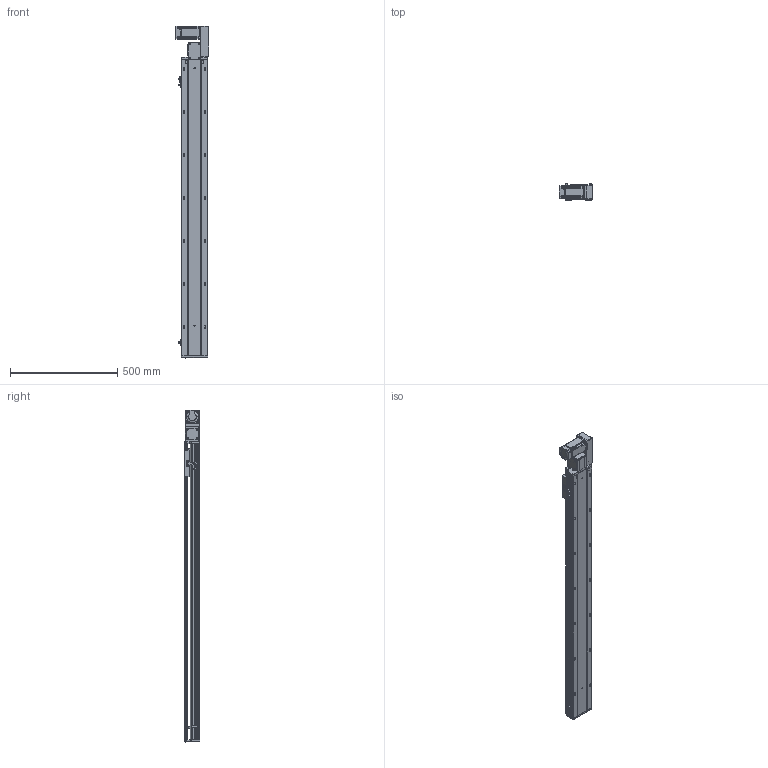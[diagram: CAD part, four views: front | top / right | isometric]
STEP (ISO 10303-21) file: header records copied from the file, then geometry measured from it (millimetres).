
FILE_DESCRIPTION (( 'STEP AP203' ), '1' );
FILE_NAME ('RY120-T-300-RK.SLDASM_1150.step', '2021-03-01T03:53:53', ( '盈信电脑' ), ( '东莞市道滘镇水果街19号' ), 'SwSTEP 2.0', 'SolidWorks 2012', '' );
FILE_SCHEMA (( 'CONFIG_CONTROL_DESIGN' ));
Length unit declared in the file: millimetre
Products named in the file (17): RY120-T-300-RK.SLDASM_1150; RY120-T主同步轮轴承压盖; RY120-T萇儂欶; 15; RY120-T萇儂假蚾啣; RY120-T蹟翐M4; RY120外置感应片(140共用）; 覜茼ん672; RY120-T肮祭湍揤踡輸2; RY120-T肮祭湍揤踡輸1; RY120綴裔啣; RY120肮祭湍臏賑輸; RY120-T-300-RK倰第奻裔啣_1150; RY120-T-300-RK倰第菁釱_1150; RY120-T翋肮祭盓傅釱; 滅袉蝶18-10; RY120-T翋肮祭謫裔啣
Assembly tree (22 placements, depth 2):
  RY120-T-300-RK.SLDASM_1150
    RY120-T-300-RK倰第菁釱_1150
    RY120-T-300-RK倰第奻裔啣_1150
    RY120肮祭湍臏賑輸
    RY120綴裔啣
    覜茼ん672  x3
    RY120外置感应片(140共用）
    RY120-T肮祭湍揤踡輸1
    RY120-T肮祭湍揤踡輸2
    RY120-T翋肮祭盓傅釱
    滅袉蝶18-10  x2
    RY120-T翋肮祭謫裔啣
    15
    RY120-T萇儂假蚾啣
    RY120-T蹟翐M4  x4
    RY120-T萇儂欶
    RY120-T主同步轮轴承压盖
Bounding box: 155.5 x 73 x 1547.5 mm (x, y, z)
Volume: 3946758.2 mm3; surface area: 1480474.9 mm2
Topology: 23 solids, 23 shells, 2836 faces, 7720 edges, 4940 vertices
Faces by surface type: plane 1412, cylinder 1074, cone 261, bspline 89
Entity records: 89921 total; most frequent: CARTESIAN_POINT 22730, ORIENTED_EDGE 13840, DIRECTION 13142, EDGE_CURVE 6920, VERTEX_POINT 4527, AXIS2_PLACEMENT_3D 4407, LINE 4328, VECTOR 4328
